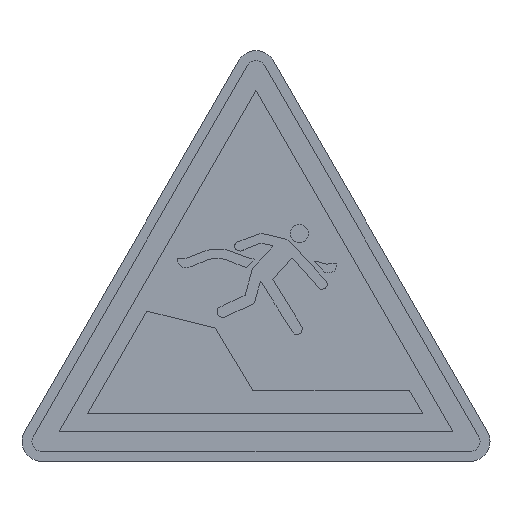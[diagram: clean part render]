
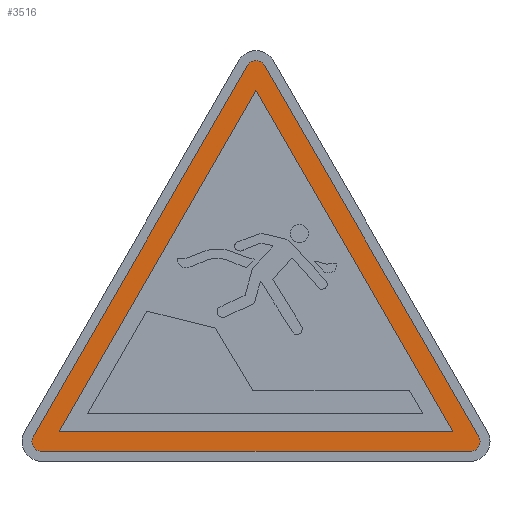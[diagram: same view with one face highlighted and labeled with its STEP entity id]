
A CAD part, top view. The second image highlights one B-rep face of the part: STEP entity #3516.
In plain terms, the highlighted planar face has unit normal (0, 0, 1).
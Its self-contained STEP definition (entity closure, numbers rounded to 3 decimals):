
#88 = LINE ( 'NONE', #111, #4914 ) ;
#104 = CARTESIAN_POINT ( 'NONE',  ( 0., 39.301, 0.22 ) ) ;
#111 = CARTESIAN_POINT ( 'NONE',  ( 22.402, 2.5, 0.22 ) ) ;
#121 = EDGE_LOOP ( 'NONE', ( #1097, #1764, #2744, #1492, #3824, #4356 ) ) ;
#318 = EDGE_CURVE ( 'NONE', #3072, #1806, #324, .T. ) ;
#323 = ORIENTED_EDGE ( 'NONE', *, *, #318, .F. ) ;
#324 = LINE ( 'NONE', #677, #2050 ) ;
#331 = CARTESIAN_POINT ( 'NONE',  ( 19.804, 3., 0.22 ) ) ;
#371 = FACE_BOUND ( 'NONE', #3234, .T. ) ;
#417 = CARTESIAN_POINT ( 'NONE',  ( 21.536, 2., 0.22 ) ) ;
#665 = EDGE_CURVE ( 'NONE', #2930, #2589, #4733, .T. ) ;
#672 = CARTESIAN_POINT ( 'NONE',  ( -22.402, 2.5, 0.22 ) ) ;
#677 = CARTESIAN_POINT ( 'NONE',  ( -19.804, 3., 0.22 ) ) ;
#726 = EDGE_CURVE ( 'NONE', #4363, #2930, #1290, .T. ) ;
#736 = ORIENTED_EDGE ( 'NONE', *, *, #4857, .F. ) ;
#762 = DIRECTION ( 'NONE',  ( 1., 0., 0. ) ) ;
#817 = DIRECTION ( 'NONE',  ( 0., 0., 1. ) ) ;
#921 = AXIS2_PLACEMENT_3D ( 'NONE', #1659, #3986, #4387 ) ;
#932 = LINE ( 'NONE', #4465, #2783 ) ;
#1000 = LINE ( 'NONE', #2528, #2922 ) ;
#1097 = ORIENTED_EDGE ( 'NONE', *, *, #1640, .T. ) ;
#1166 = CARTESIAN_POINT ( 'NONE',  ( 0., 37.301, 0.22 ) ) ;
#1185 = CARTESIAN_POINT ( 'NONE',  ( -0.866, 39.801, 0.22 ) ) ;
#1213 = DIRECTION ( 'NONE',  ( -0.5, -0.866, 0. ) ) ;
#1290 = LINE ( 'NONE', #1185, #2365 ) ;
#1294 = ORIENTED_EDGE ( 'NONE', *, *, #4559, .F. ) ;
#1492 = ORIENTED_EDGE ( 'NONE', *, *, #1720, .T. ) ;
#1551 = VECTOR ( 'NONE', #4605, 1000. ) ;
#1640 = EDGE_CURVE ( 'NONE', #1709, #4363, #2046, .T. ) ;
#1659 = CARTESIAN_POINT ( 'NONE',  ( -21.536, 2., 0.22 ) ) ;
#1709 = VERTEX_POINT ( 'NONE', #2911 ) ;
#1720 = EDGE_CURVE ( 'NONE', #2589, #4004, #1000, .T. ) ;
#1764 = ORIENTED_EDGE ( 'NONE', *, *, #726, .T. ) ;
#1806 = VERTEX_POINT ( 'NONE', #331 ) ;
#1960 = VERTEX_POINT ( 'NONE', #1166 ) ;
#2046 = CIRCLE ( 'NONE', #3745, 1. ) ;
#2050 = VECTOR ( 'NONE', #2637, 1000. ) ;
#2177 = FACE_OUTER_BOUND ( 'NONE', #121, .T. ) ;
#2340 = AXIS2_PLACEMENT_3D ( 'NONE', #417, #3491, #4640 ) ;
#2348 = CARTESIAN_POINT ( 'NONE',  ( -19.804, 3., 0.22 ) ) ;
#2365 = VECTOR ( 'NONE', #1213, 1000. ) ;
#2469 = DIRECTION ( 'NONE',  ( -0.5, 0.866, 0. ) ) ;
#2502 = CARTESIAN_POINT ( 'NONE',  ( -0.866, 39.801, 0.22 ) ) ;
#2528 = CARTESIAN_POINT ( 'NONE',  ( -21.536, 1., 0.22 ) ) ;
#2589 = VERTEX_POINT ( 'NONE', #3325 ) ;
#2637 = DIRECTION ( 'NONE',  ( 1., 0., 0. ) ) ;
#2719 = CARTESIAN_POINT ( 'NONE',  ( 0., 39.301, 0.22 ) ) ;
#2744 = ORIENTED_EDGE ( 'NONE', *, *, #665, .T. ) ;
#2783 = VECTOR ( 'NONE', #2469, 1000. ) ;
#2911 = CARTESIAN_POINT ( 'NONE',  ( 0.866, 39.801, 0.22 ) ) ;
#2922 = VECTOR ( 'NONE', #4874, 1000. ) ;
#2930 = VERTEX_POINT ( 'NONE', #672 ) ;
#3038 = CARTESIAN_POINT ( 'NONE',  ( 0., 37.301, 0.22 ) ) ;
#3072 = VERTEX_POINT ( 'NONE', #2348 ) ;
#3172 = DIRECTION ( 'NONE',  ( 1., 0., 0. ) ) ;
#3234 = EDGE_LOOP ( 'NONE', ( #323, #1294, #736 ) ) ;
#3274 = EDGE_CURVE ( 'NONE', #3706, #1709, #88, .T. ) ;
#3325 = CARTESIAN_POINT ( 'NONE',  ( -21.536, 1., 0.22 ) ) ;
#3491 = DIRECTION ( 'NONE',  ( 0., 0., 1. ) ) ;
#3516 = ADVANCED_FACE ( 'NONE', ( #2177, #371 ), #3762, .T. ) ;
#3706 = VERTEX_POINT ( 'NONE', #4175 ) ;
#3745 = AXIS2_PLACEMENT_3D ( 'NONE', #2719, #817, #762 ) ;
#3762 = PLANE ( 'NONE',  #4361 ) ;
#3824 = ORIENTED_EDGE ( 'NONE', *, *, #4710, .T. ) ;
#3855 = CARTESIAN_POINT ( 'NONE',  ( 21.536, 1., 0.22 ) ) ;
#3892 = CIRCLE ( 'NONE', #2340, 1. ) ;
#3986 = DIRECTION ( 'NONE',  ( 0., 0., 1. ) ) ;
#4004 = VERTEX_POINT ( 'NONE', #3855 ) ;
#4175 = CARTESIAN_POINT ( 'NONE',  ( 22.402, 2.5, 0.22 ) ) ;
#4356 = ORIENTED_EDGE ( 'NONE', *, *, #3274, .T. ) ;
#4361 = AXIS2_PLACEMENT_3D ( 'NONE', #104, #4628, #3172 ) ;
#4363 = VERTEX_POINT ( 'NONE', #2502 ) ;
#4387 = DIRECTION ( 'NONE',  ( 1., 0., 0. ) ) ;
#4465 = CARTESIAN_POINT ( 'NONE',  ( 19.804, 3., 0.22 ) ) ;
#4559 = EDGE_CURVE ( 'NONE', #1960, #3072, #4975, .T. ) ;
#4605 = DIRECTION ( 'NONE',  ( -0.5, -0.866, 0. ) ) ;
#4628 = DIRECTION ( 'NONE',  ( 0., 0., 1. ) ) ;
#4640 = DIRECTION ( 'NONE',  ( 1., 0., 0. ) ) ;
#4707 = DIRECTION ( 'NONE',  ( -0.5, 0.866, 0. ) ) ;
#4710 = EDGE_CURVE ( 'NONE', #4004, #3706, #3892, .T. ) ;
#4733 = CIRCLE ( 'NONE', #921, 1. ) ;
#4857 = EDGE_CURVE ( 'NONE', #1806, #1960, #932, .T. ) ;
#4874 = DIRECTION ( 'NONE',  ( 1., 0., 0. ) ) ;
#4914 = VECTOR ( 'NONE', #4707, 1000. ) ;
#4975 = LINE ( 'NONE', #3038, #1551 ) ;
